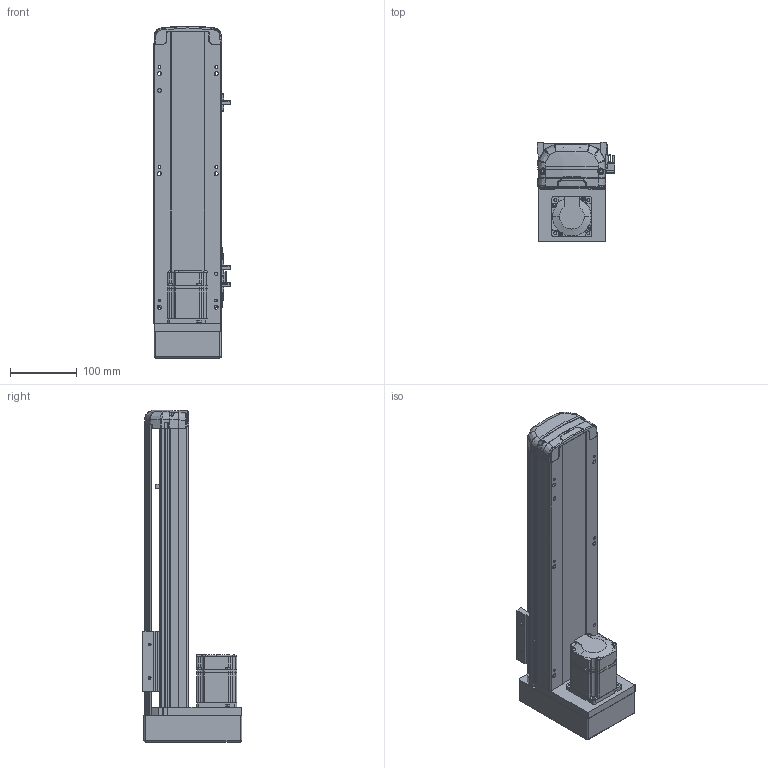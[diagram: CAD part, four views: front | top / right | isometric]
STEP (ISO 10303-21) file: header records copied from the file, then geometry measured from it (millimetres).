
FILE_DESCRIPTION (( 'STEP AP214' ), '1' );
FILE_NAME ('RTH10-XX-250-M-M20-C4.STEP', '2025-10-25T04:03:56', ( 'Microsoft' ), ( 'Microsoft' ), 'SwSTEP 2.0', 'SolidWorks 2018', '' );
FILE_SCHEMA (( 'AUTOMOTIVE_DESIGN' ));
Length unit declared in the file: millimetre
Products named in the file (10): N_RTH12-M-007P-奻裔^RTH10-XX-XX-M-M20-C4; N_RTH12-M-008-萇儂啣^RTH10-XX-XX-M-M20-C4; N_OMRON EE-SX672 传感器^RTH10-XX-XX-M-M20-C4; N_RTH12-GY-004-賑釱^RTH10-XX-XX-M-M20-C4; N_RTH12-M-011P-臏倰第菁釱^RTH10-XX-XX-M-M20-C4; N_RTH12-M-018-裔赽^RTH10-XX-XX-M-M20-C4; N_200W-1^RTH10-XX-XX-M-M20-C4; N_RTH13-L-012覜茼え俋离^RTH10-XX-XX-M-M20-C4; N_RTH12-GY-001P^RTH10-XX-XX-M-M20-C4; RTH10-XX-250-M-M20-C4
Assembly tree (11 placements, depth 2):
  RTH10-XX-250-M-M20-C4
    N_RTH12-M-011P-臏倰第菁釱^RTH10-XX-XX-M-M20-C4
    N_RTH13-L-012覜茼え俋离^RTH10-XX-XX-M-M20-C4
    N_OMRON EE-SX672 传感器^RTH10-XX-XX-M-M20-C4  x3
    N_200W-1^RTH10-XX-XX-M-M20-C4
    N_RTH12-M-007P-奻裔^RTH10-XX-XX-M-M20-C4
    N_RTH12-M-008-萇儂啣^RTH10-XX-XX-M-M20-C4
    N_RTH12-M-018-裔赽^RTH10-XX-XX-M-M20-C4
    N_RTH12-GY-004-賑釱^RTH10-XX-XX-M-M20-C4
    N_RTH12-GY-001P^RTH10-XX-XX-M-M20-C4
Bounding box: 116.5 x 149 x 497.31 mm (x, y, z)
Volume: 2792985.8 mm3; surface area: 421381.3 mm2
Topology: 10 solids, 12 shells, 1949 faces, 5416 edges, 3555 vertices
Faces by surface type: plane 983, bspline 472, cylinder 459, cone 29, sphere 4, torus 2
Entity records: 58302 total; most frequent: CARTESIAN_POINT 23011, ORIENTED_EDGE 7904, DIRECTION 6086, EDGE_CURVE 3958, VERTEX_POINT 2599, LINE 2146, VECTOR 2146, AXIS2_PLACEMENT_3D 1970
